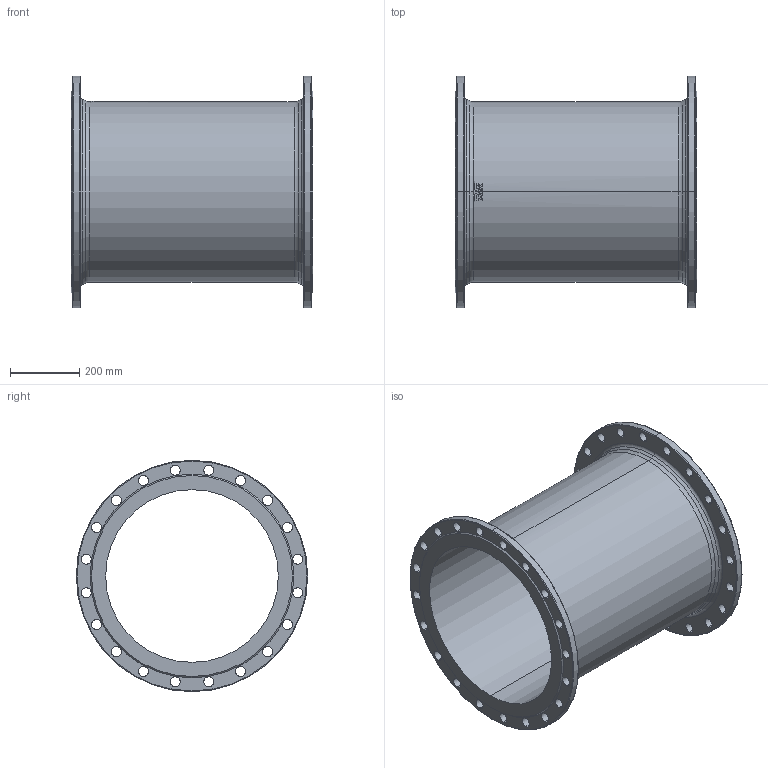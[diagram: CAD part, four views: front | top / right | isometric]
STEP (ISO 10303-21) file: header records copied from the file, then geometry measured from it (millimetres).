
FILE_DESCRIPTION (( 'STEP AP203' ), '1' );
FILE_NAME ('O_712_5010_DN500_0X_REV01.step', '2021-12-03T10:21:59', ( '' ), ( '' ), 'SwSTEP 2.0', 'SolidWorks 2019', '' );
FILE_SCHEMA (( 'CONFIG_CONTROL_DESIGN' ));
Length unit declared in the file: millimetre
Products named in the file (1): O_712_5010_DN500_0X_REV01
Bounding box: 700 x 670 x 670 mm (x, y, z)
Volume: 18831742.4 mm3; surface area: 2843323.9 mm2
Topology: 1 solids, 1 shells, 160 faces, 431 edges, 280 vertices
Faces by surface type: cylinder 93, plane 26, bspline 17, torus 16, cone 8
Entity records: 5974 total; most frequent: CARTESIAN_POINT 1591, DIRECTION 939, ORIENTED_EDGE 862, EDGE_CURVE 431, AXIS2_PLACEMENT_3D 398, VERTEX_POINT 280, CIRCLE 254, EDGE_LOOP 249
